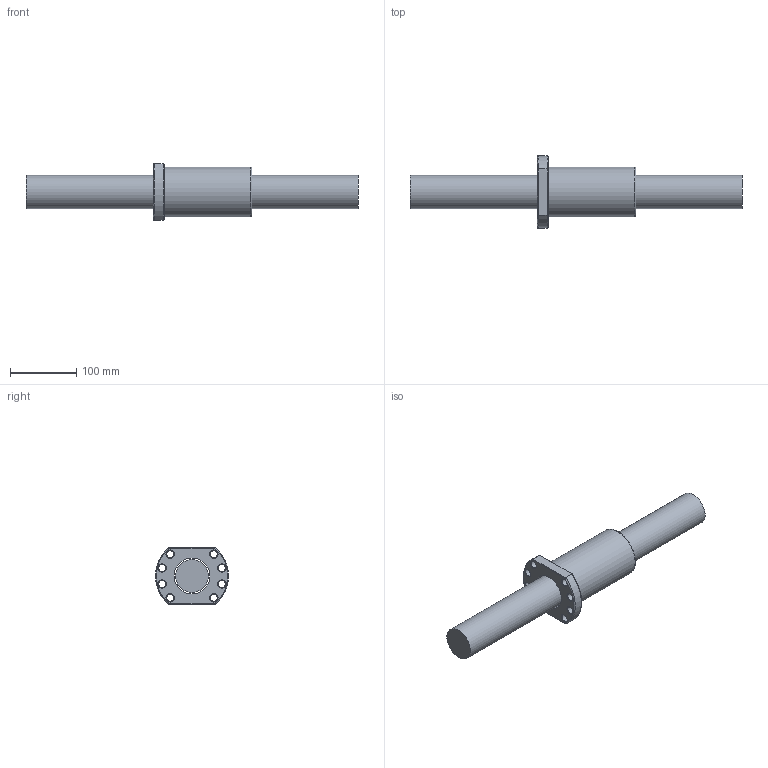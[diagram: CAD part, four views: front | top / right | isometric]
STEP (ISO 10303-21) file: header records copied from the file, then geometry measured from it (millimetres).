
FILE_DESCRIPTION (( 'STEP AP203' ), '1' );
FILE_NAME ('OFU05010D-4.step', '2024-05-15T05:32:53', ( '' ), ( '' ), 'SwSTEP 2.0', 'SolidWorks 2022', '' );
FILE_SCHEMA (( 'CONFIG_CONTROL_DESIGN' ));
Length unit declared in the file: millimetre
Products named in the file (1): OFU05010D-4
Bounding box: 500 x 109.65 x 85 mm (x, y, z)
Volume: 1344283.5 mm3; surface area: 158688.8 mm2
Topology: 2 solids, 2 shells, 60 faces, 155 edges, 100 vertices
Faces by surface type: cylinder 21, cone 17, plane 12, bspline 5, torus 5
Full cylindrical faces by diameter (mm): 4 x1, 7 x6, 11 x8, 50 x1, 54.1 x1, 75 x1
Entity records: 3359 total; most frequent: CARTESIAN_POINT 2197, DIRECTION 214, ORIENTED_EDGE 182, EDGE_LOOP 106, AXIS2_PLACEMENT_3D 99, EDGE_CURVE 91, VERTEX_POINT 75, FACE_OUTER_BOUND 68
